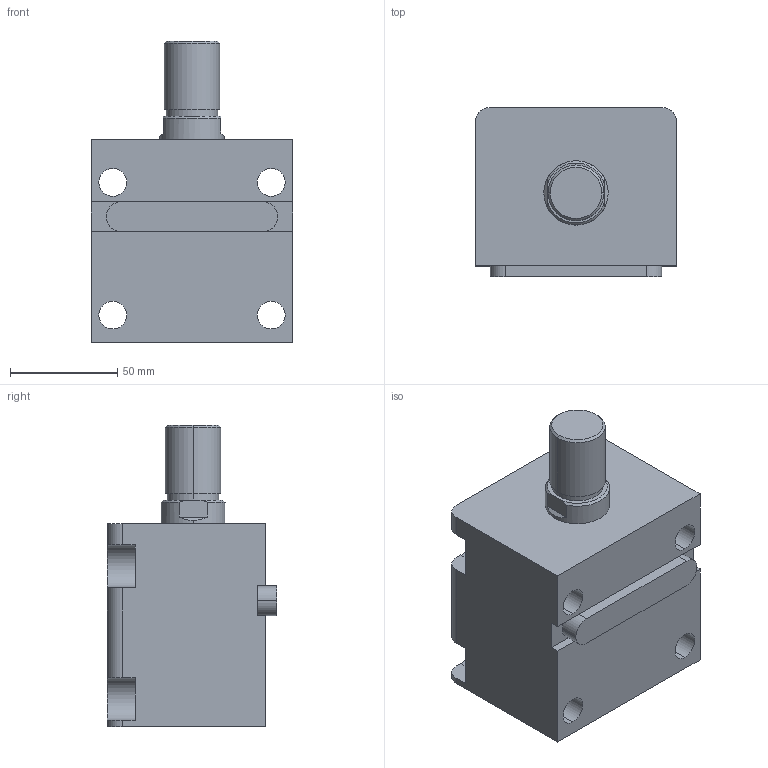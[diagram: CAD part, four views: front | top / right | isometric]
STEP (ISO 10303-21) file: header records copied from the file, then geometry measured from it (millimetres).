
FILE_DESCRIPTION (( 'STEP AP203' ), '1' );
FILE_NAME ('HTB-LA50-35W.STEP', '2019-10-09T07:08:55', ( '微软用户' ), ( '微软中国' ), 'SwSTEP 2.0', 'SolidWorks 2012', '' );
FILE_SCHEMA (( 'CONFIG_CONTROL_DESIGN' ));
Length unit declared in the file: millimetre
Products named in the file (4): HTB-LA50-35掛极; HTB-LA50-35W活塞杆; HTB-LA50-35W; HTB-LA50-瑩
Assembly tree (3 placements, depth 2):
  HTB-LA50-35W
    HTB-LA50-35掛极
    HTB-LA50-35W活塞杆
    HTB-LA50-瑩
Bounding box: 94 x 79 x 141 mm (x, y, z)
Volume: 592356.9 mm3; surface area: 92180.9 mm2
Topology: 3 solids, 3 shells, 90 faces, 219 edges, 144 vertices
Faces by surface type: plane 41, cylinder 37, cone 8, torus 4
Entity records: 3107 total; most frequent: DIRECTION 497, CARTESIAN_POINT 487, ORIENTED_EDGE 438, EDGE_CURVE 219, AXIS2_PLACEMENT_3D 190, VERTEX_POINT 144, VECTOR 117, LINE 117
